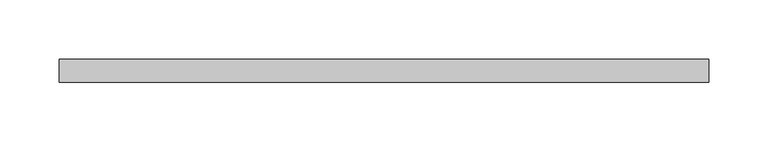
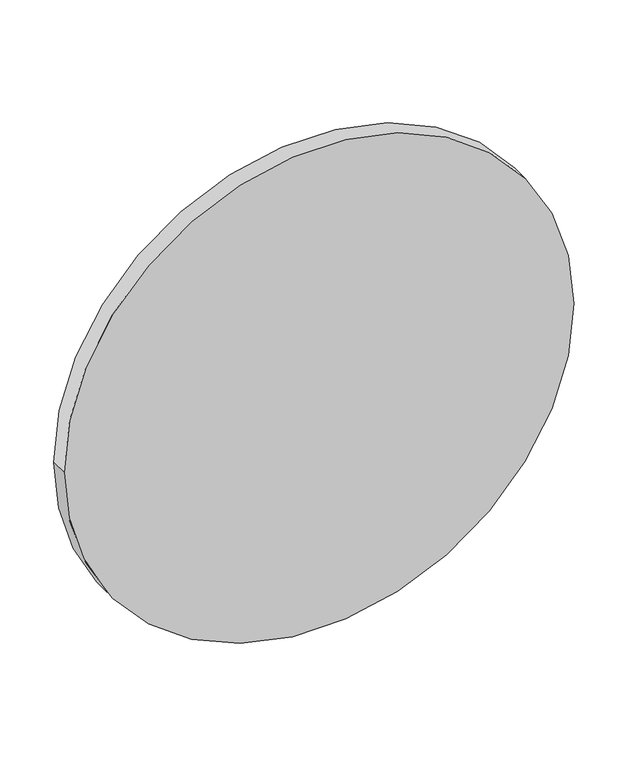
"""IFC4 building model written with IfcOpenShell, lengths in millimetres: proxy geometry, CAMBRIDGE^TABLE 1_60 ROUND-PLINTH TOP."""

import ifcopenshell
import ifcopenshell.guid

model = None  # the IFC model being written
_history = None  # IfcOwnerHistory: only IFC2X3 demands one
_inside = {}  # id of a spatial element -> (the spatial element, [elements in it])
_under = {}  # id of a project, library or spatial element -> (it, [spatial elements below it])
_declared = {}  # id of a project -> (the project, [libraries it declares])
_typed = {}  # id of a type object -> (the type object, [elements of that type])
_made_of = {}  # id of a material, layer set ... -> (it, [elements and type objects made of it])


def new_model(schema):
    """Start an empty IFC model of exactly this schema.

    Asked for "IFC4X3", IfcOpenShell would pick the latest addendum, in which some entities
    have other attributes; the version numbers below select the first issue.
    IFC2X3 requires an IfcOwnerHistory on every rooted entity: one is made here for all.
    """
    global model, _history
    if schema == "IFC4X3":
        model = ifcopenshell.file(schema_version=(4, 3, 0, 0))
    else:
        model = ifcopenshell.file(schema=schema)
    _inside.clear()
    _under.clear()
    _declared.clear()
    _typed.clear()
    _made_of.clear()
    _history = None
    if model.schema == "IFC2X3":
        org = make("IfcOrganization", Name="unknown")
        user = make(
            "IfcPersonAndOrganization",
            ThePerson=make("IfcPerson", FamilyName="unknown"),
            TheOrganization=org,
        )
        app = make(
            "IfcApplication",
            ApplicationDeveloper=org,
            Version="unknown",
            ApplicationFullName="unknown",
            ApplicationIdentifier="unknown",
        )
        _history = make(
            "IfcOwnerHistory",
            OwningUser=user,
            OwningApplication=app,
            ChangeAction="ADDED",
            CreationDate=0,
        )
    return model


def make(cls, **values):
    """One entity of the class cls with the attributes given. An attribute that is None is left unset."""
    return model.create_entity(
        cls, **{name: value for name, value in values.items() if value is not None}
    )


def rooted(cls, **values):
    """An entity with a GlobalId (a new one), such as an element, a storey or a relation."""
    return make(cls, GlobalId=ifcopenshell.guid.new(), OwnerHistory=_history, **values)


def si_unit(unit_type, name, prefix=None):
    """IfcSIUnit, for example si_unit("LENGTHUNIT", "METRE", prefix="MILLI")."""
    return make("IfcSIUnit", UnitType=unit_type, Prefix=prefix, Name=name)


def assignment(units):
    """IfcUnitAssignment: the units of a project."""
    return None if units is None else make("IfcUnitAssignment", Units=units)


def point(xyz):
    """IfcCartesianPoint."""
    return None if xyz is None else make("IfcCartesianPoint", Coordinates=xyz)


def direction(xyz):
    """IfcDirection."""
    return None if xyz is None else make("IfcDirection", DirectionRatios=xyz)


def frame(location, z_axis=None, x_axis=None):
    """IfcAxis2Placement3D, a coordinate frame: its origin and axes. An axis left out is left unset."""
    return make(
        "IfcAxis2Placement3D",
        Location=point(location),
        Axis=direction(z_axis),
        RefDirection=direction(x_axis),
    )


def frame_2d(location, x_axis=None):
    """IfcAxis2Placement2D, a coordinate frame in the plane: its origin and x axis."""
    return make(
        "IfcAxis2Placement2D", Location=point(location), RefDirection=direction(x_axis)
    )


def origin():
    """The frame at (0, 0, 0) with its axes left unset."""
    return frame((0.0, 0.0, 0.0))


def origin_2d():
    """The frame at (0, 0) in the plane with its x axis left unset."""
    return frame_2d((0.0, 0.0))


def place(relative_to, where):
    """IfcLocalPlacement: puts the frame where relative to a parent placement (None: the world)."""
    return make(
        "IfcLocalPlacement", PlacementRelTo=relative_to, RelativePlacement=where
    )


def context(
    kind, dimensions, precision=None, world=None, true_north=None, identifier=None
):
    """IfcGeometricRepresentationContext, for example the 3D "Model" context."""
    return make(
        "IfcGeometricRepresentationContext",
        ContextIdentifier=identifier,
        ContextType=kind,
        CoordinateSpaceDimension=dimensions,
        Precision=precision,
        WorldCoordinateSystem=world,
        TrueNorth=true_north,
    )


def project(units=None, contexts=None):
    """IfcProject with its units and contexts."""
    return rooted(
        "IfcProject",
        Name="project",
        RepresentationContexts=contexts,
        UnitsInContext=assignment(units),
    )


def spatial(cls, under=None, at=None, **own):
    """A site, building, storey or space (cls), placed at a placement, below another one or the project."""
    s = rooted(cls, ObjectPlacement=at, **own)
    if under is not None:
        _under.setdefault(under.id(), (under, []))[1].append(s)
    return s


def circle_curve(where, radius):
    """IfcCircle in the frame where."""
    return make("IfcCircle", Position=where, Radius=radius)


def trimmed(basis, trim1, trim2, sense, master):
    """IfcTrimmedCurve: the piece of a basis curve between two trims."""
    return make(
        "IfcTrimmedCurve",
        BasisCurve=basis,
        Trim1=trim1,
        Trim2=trim2,
        SenseAgreement=sense,
        MasterRepresentation=master,
    )


def segment(curve, same_sense, transition):
    """IfcCompositeCurveSegment."""
    return make(
        "IfcCompositeCurveSegment",
        Transition=transition,
        SameSense=same_sense,
        ParentCurve=curve,
    )


def composite_curve(segments, self_intersect=None):
    """IfcCompositeCurve: segments joined end to end."""
    return make("IfcCompositeCurve", Segments=segments, SelfIntersect=self_intersect)


def outline(outer, holes=None, kind="AREA"):
    """IfcArbitraryClosedProfileDef: a profile drawn as a closed curve; with holes, ...WithVoids."""
    if holes is None:
        return make("IfcArbitraryClosedProfileDef", ProfileType=kind, OuterCurve=outer)
    return make(
        "IfcArbitraryProfileDefWithVoids",
        ProfileType=kind,
        OuterCurve=outer,
        InnerCurves=holes,
    )


def extrude(swept, where, along, depth):
    """IfcExtrudedAreaSolid: the profile swept, set in the frame where, extruded along a direction by depth."""
    return make(
        "IfcExtrudedAreaSolid",
        SweptArea=swept,
        Position=where,
        ExtrudedDirection=direction(along),
        Depth=depth,
    )


def shape(context_of_items, identifier, shape_type, items):
    """IfcShapeRepresentation: the items that make up one representation, for example the "Body"."""
    return make(
        "IfcShapeRepresentation",
        ContextOfItems=context_of_items,
        RepresentationIdentifier=identifier,
        RepresentationType=shape_type,
        Items=items,
    )


def source(mapping_origin, context_of_items, identifier, shape_type, items):
    """IfcRepresentationMap: a shape defined once, which mapped items show again and again."""
    return make(
        "IfcRepresentationMap",
        MappingOrigin=mapping_origin,
        MappedRepresentation=shape(context_of_items, identifier, shape_type, items),
    )


def transform(
    local_origin,
    x_axis=None,
    y_axis=None,
    z_axis=None,
    scale=None,
    scale2=None,
    scale3=None,
    uniform=True,
):
    """IfcCartesianTransformationOperator3D, or its non-uniform kind. x_axis, y_axis, z_axis: its Axis1, 2, 3."""
    if uniform:
        return make(
            "IfcCartesianTransformationOperator3D",
            Axis1=direction(x_axis),
            Axis2=direction(y_axis),
            LocalOrigin=point(local_origin),
            Scale=scale,
            Axis3=direction(z_axis),
        )
    return make(
        "IfcCartesianTransformationOperator3DnonUniform",
        Axis1=direction(x_axis),
        Axis2=direction(y_axis),
        LocalOrigin=point(local_origin),
        Scale=scale,
        Axis3=direction(z_axis),
        Scale2=scale2,
        Scale3=scale3,
    )


def mapped(mapping_source, mapping_target):
    """IfcMappedItem: shows the shape of a source again, moved by a transform."""
    return make(
        "IfcMappedItem", MappingSource=mapping_source, MappingTarget=mapping_target
    )


def made_of(thing, what):
    """Note that an element or type object is made of a material, layer set ...; save() writes the relation."""
    if what is not None:
        _made_of.setdefault(what.id(), (what, []))[1].append(thing)
    return thing


def element(
    cls,
    number,
    at=None,
    inside=None,
    cuts=None,
    type_object=None,
    material=None,
    context=None,
    identifier="Body",
    shape_type=None,
    held_by="IfcProductDefinitionShape",
    body=None,
    shapes=None,
    **own,
):
    """One element of the class cls, such as IfcWall. Its Tag is "e" and its number.

    at: its placement. inside: the storey or other place that contains it. cuts: it is an
    opening in that element (IfcRelVoidsElement). A single representation is given by context,
    identifier, shape_type and body (its items); several are given by shapes. held_by: the class
    of the entity that holds the representations. save() writes the other relations.
    """
    e = rooted(cls, Tag="e%d" % number, ObjectPlacement=at, **own)
    if body is not None:
        shapes = [shape(context, identifier, shape_type, body)]
    if shapes is not None:
        e.Representation = make(held_by, Representations=shapes)
    if inside is not None:
        _inside.setdefault(inside.id(), (inside, []))[1].append(e)
    if cuts is not None:
        rooted(
            "IfcRelVoidsElement", RelatingBuildingElement=cuts, RelatedOpeningElement=e
        )
    if type_object is not None:
        _typed.setdefault(type_object.id(), (type_object, []))[1].append(e)
    return made_of(e, material)


def aggregate(whole, parts):
    """IfcRelAggregates: a whole, such as a stair, and the parts it consists of."""
    return rooted("IfcRelAggregates", RelatingObject=whole, RelatedObjects=parts)


def save(model, path):
    """Write the relations noted so far, then the file.

    IfcRelAggregates (storeys below a building ...), IfcRelContainedInSpatialStructure (elements
    in a storey), IfcRelDefinesByType, IfcRelAssociatesMaterial and IfcRelDeclares: one each for
    every whole, place, type object, material and project.
    """
    for whole, parts in _under.values():
        aggregate(whole, parts)
    for where, things in _inside.values():
        rooted(
            "IfcRelContainedInSpatialStructure",
            RelatedElements=things,
            RelatingStructure=where,
        )
    for kind, things in _typed.values():
        rooted("IfcRelDefinesByType", RelatedObjects=things, RelatingType=kind)
    for what, things in _made_of.values():
        rooted("IfcRelAssociatesMaterial", RelatedObjects=things, RelatingMaterial=what)
    for by, libraries in _declared.values():
        rooted("IfcRelDeclares", RelatingContext=by, RelatedDefinitions=libraries)
    model.write(path)


def generic_models_939ff904(model_context):
    return source(origin(), model_context, "Body", "SweptSolid", [
        extrude(outline(composite_curve([segment(trimmed(circle_curve(origin_2d(), 273.05), [point((0.0, 273.05))], [point((0.0, -273.05))], False, "CARTESIAN"), True, "CONTINUOUS"), segment(trimmed(circle_curve(origin_2d(), 273.05), [point((0.0, -273.05))], [point((0.0, 273.05))], False, "CARTESIAN"), True, "CONTINUOUS")], self_intersect=False)), frame((0.0, -635.0, 0.0), z_axis=(0.0, 1.0, 0.0), x_axis=(0.0, 0.0, 1.0)), (0.0, 0.0, 1.0), 19.05),
    ])


if __name__ == "__main__":
    model = new_model("IFC4")
    model_context = context("Model", 3, world=origin())
    ifc_project = project(units=[si_unit("LENGTHUNIT", "METRE", prefix="MILLI")], contexts=[model_context])
    site = spatial("IfcSite", under=ifc_project)
    building = spatial("IfcBuilding", under=site)
    placement = place(None, origin())
    generic_models_shape = generic_models_939ff904(model_context)
    element("IfcBuildingElementProxy", 1, Name="CAMBRIDGE^TABLE 1_60 ROUND-PLINTH TOP", ObjectType="CAMBRIDGE^TABLE 1_60 ROUND-PLINTH TOP", at=placement, inside=building, context=model_context, shape_type="MappedRepresentation", body=[
        mapped(generic_models_shape, transform((0.0, 0.0, 0.0), x_axis=(1.0, 0.0, 0.0), y_axis=(0.0, 1.0, 0.0), z_axis=(0.0, 0.0, 1.0))),
    ])
    save(model, "model.ifc")
